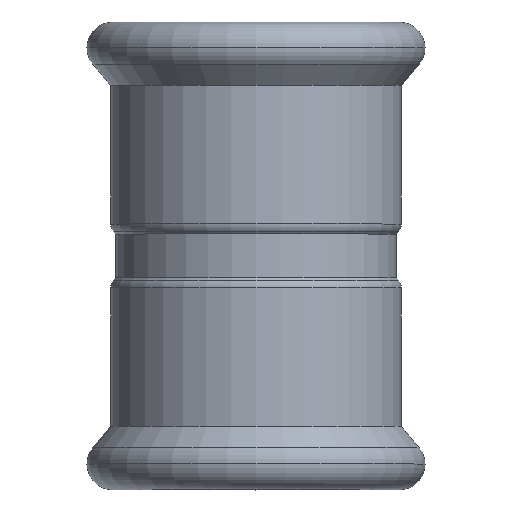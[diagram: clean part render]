
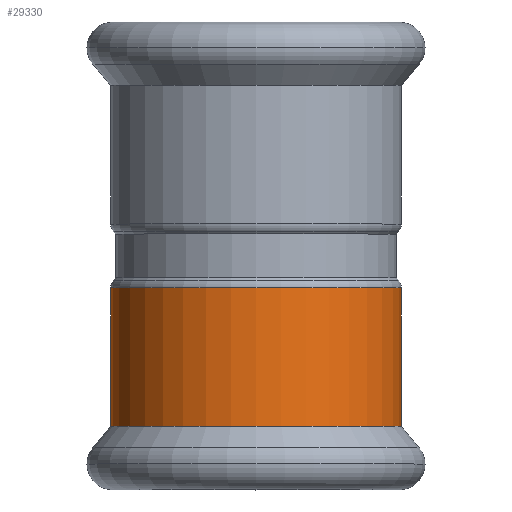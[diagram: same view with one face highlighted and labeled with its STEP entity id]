
A CAD part, top view. The second image highlights one B-rep face of the part: STEP entity #29330.
In plain terms, the highlighted cylindrical face has radius 19.15 mm (diameter 38.3 mm), a partial arc.
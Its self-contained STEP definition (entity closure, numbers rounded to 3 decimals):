
#21770=CARTESIAN_POINT('',(-307.661,169.255,0.));
#21780=VERTEX_POINT('',#21770);
#21960=CARTESIAN_POINT('',(-269.361,169.255,
0.));
#21970=VERTEX_POINT('',#21960);
#22000=CARTESIAN_POINT('',(-288.511,169.255,0.));
#22010=DIRECTION('',(0.,-1.,0.));
#22020=DIRECTION('',(1.,0.,0.));
#22030=AXIS2_PLACEMENT_3D('',#22000,#22010,#22020);
#22040=CIRCLE('',#22030,19.15);
#22100=CARTESIAN_POINT('',(-288.511,178.662,0.));
#22110=DIRECTION('',(0.,1.,0.));
#22120=DIRECTION('',(1.,0.,0.));
#22130=AXIS2_PLACEMENT_3D('',#22100,#22110,#22120);
#22140=CYLINDRICAL_SURFACE('',#22130,19.15);
#22150=CARTESIAN_POINT('',(-307.661,178.662,
0.));
#22160=DIRECTION('',(0.,1.,0.));
#22170=VECTOR('',#22160,1.);
#22180=LINE('',#22150,#22170);
#22190=CARTESIAN_POINT('',(-307.661,187.522,0.));
#22200=VERTEX_POINT('',#22190);
#22210=EDGE_CURVE('',#21780,#22200,#22180,.T.);
#22240=CARTESIAN_POINT('',(-269.361,178.662,0.));
#22250=DIRECTION('',(0.,1.,0.));
#22260=VECTOR('',#22250,1.);
#22270=LINE('',#22240,#22260);
#22280=CARTESIAN_POINT('',(-269.361,187.522,0.));
#22290=VERTEX_POINT('',#22280);
#22300=EDGE_CURVE('',#21970,#22290,#22270,.T.);
#22320=CARTESIAN_POINT('',(-288.511,187.522,0.));
#22330=DIRECTION('',(0.,1.,0.));
#22340=DIRECTION('',(1.,0.,0.));
#22350=AXIS2_PLACEMENT_3D('',#22320,#22330,#22340);
#22360=CIRCLE('',#22350,19.15);
#29100=EDGE_CURVE('',#21970,#21780,#22040,.T.);
#29260=ORIENTED_EDGE('',*,*,#29100,.F.);
#29270=ORIENTED_EDGE('',*,*,#22210,.F.);
#29280=EDGE_CURVE('',#22200,#22290,#22360,.T.);
#29290=ORIENTED_EDGE('',*,*,#29280,.F.);
#29300=ORIENTED_EDGE('',*,*,#22300,.T.);
#29310=EDGE_LOOP('',(#29300,#29290,#29270,#29260));
#29320=FACE_OUTER_BOUND('',#29310,.T.);
#29330=ADVANCED_FACE('',(#29320),#22140,.T.);
